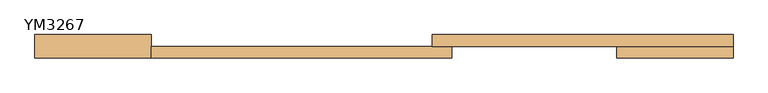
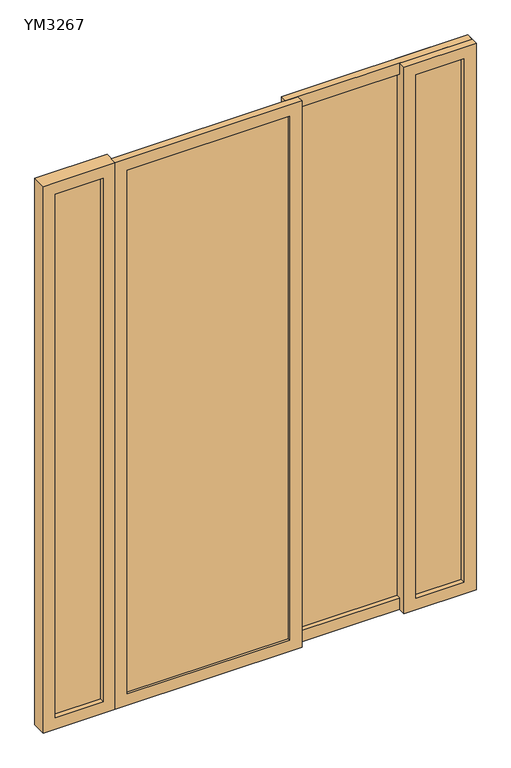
"""IFC4 building model written with IfcOpenShell, lengths in millimetres: door geometry, 移门-推拉门 : YM3267."""

from ifc_helpers import new_model, si_unit, frame, origin, place, context, project, spatial, polyline, outline, extrude, source, transform, mapped, element, save


def ym3267_137c07f3(model_context):
    return source(origin(), model_context, "Body", "SweptSolid", [
        extrude(outline(polyline([(125.0, -5.0), (-550.0, -5.0), (-550.0, 5.0), (125.0, 5.0), (125.0, -5.0)])), frame((0.0, 0.0, 50.0), z_axis=(0.0, 0.0, 1.0), x_axis=(1.0, 0.0, 0.0)), (0.0, 0.0, 1.0), 2300.0),
        extrude(outline(polyline([(850.0, 35.0), (175.0, 35.0), (175.0, 45.0), (850.0, 45.0), (850.0, 35.0)])), frame((0.0, 0.0, 50.0), z_axis=(0.0, 0.0, 1.0), x_axis=(1.0, 0.0, 0.0)), (0.0, 0.0, 1.0), 2300.0),
        extrude(outline(polyline([(-650.0, 5.7105538), (-850.0, 5.7105538), (-850.0, 25.7105538), (-650.0, 25.7105538), (-650.0, 5.7105538)])), frame((0.0, 0.0, 50.0), z_axis=(0.0, 0.0, 1.0), x_axis=(1.0, 0.0, 0.0)), (0.0, 0.0, 1.0), 2300.0),
        extrude(outline(polyline([(850.0, 5.7105538), (650.0, 5.7105538), (650.0, 25.7105538), (850.0, 25.7105538), (850.0, 5.7105538)])), frame((0.0, 0.0, 50.0), z_axis=(0.0, 0.0, 1.0), x_axis=(1.0, 0.0, 0.0)), (0.0, 0.0, 1.0), 2300.0),
        extrude(outline(polyline([(0.0, 900.0), (2400.0, 900.0), (2400.0, 125.0), (0.0, 125.0), (0.0, 900.0)]), holes=[polyline([(2350.0, 175.0), (2350.0, 850.0), (50.0, 850.0), (50.0, 175.0), (2350.0, 175.0)])]), frame((0.0, 15.0, 0.0), z_axis=(0.0, 1.0, 0.0), x_axis=(0.0, 0.0, 1.0)), (0.0, 0.0, 1.0), 30.0),
        extrude(outline(polyline([(0.0, 175.0), (2400.0, 175.0), (2400.0, -600.0), (0.0, -600.0), (0.0, 175.0)]), holes=[polyline([(2350.0, -550.0), (2350.0, 125.0), (50.0, 125.0), (50.0, -550.0), (2350.0, -550.0)])]), frame((0.0, -15.0, 0.0), z_axis=(0.0, 1.0, 0.0), x_axis=(0.0, 0.0, 1.0)), (0.0, 0.0, 1.0), 30.0),
        extrude(outline(polyline([(0.0, -600.0), (2400.0, -600.0), (2400.0, -900.0), (0.0, -900.0), (0.0, -600.0)]), holes=[polyline([(2350.0, -850.0), (2350.0, -650.0), (50.0, -650.0), (50.0, -850.0), (2350.0, -850.0)])]), frame((0.0, -15.0, 0.0), z_axis=(0.0, 1.0, 0.0), x_axis=(0.0, 0.0, 1.0)), (0.0, 0.0, 1.0), 60.0),
        extrude(outline(polyline([(0.0, 900.0), (2400.0, 900.0), (2400.0, 600.0), (0.0, 600.0), (0.0, 900.0)]), holes=[polyline([(2350.0, 650.0), (2350.0, 850.0), (50.0, 850.0), (50.0, 650.0), (2350.0, 650.0)])]), frame((0.0, -15.0, 0.0), z_axis=(0.0, 1.0, 0.0), x_axis=(0.0, 0.0, 1.0)), (0.0, 0.0, 1.0), 60.0),
    ])


if __name__ == "__main__":
    model = new_model("IFC4")
    model_context = context("Model", 3, world=origin())
    ifc_project = project(units=[si_unit("LENGTHUNIT", "METRE", prefix="MILLI")], contexts=[model_context])
    site = spatial("IfcSite", under=ifc_project)
    building = spatial("IfcBuilding", under=site)
    placement = place(None, origin())
    ym3267_shape = ym3267_137c07f3(model_context)
    element("IfcDoor", 1, ObjectType="移门-推拉门 : YM3267", at=placement, inside=building, context=model_context, shape_type="MappedRepresentation", body=[
        mapped(ym3267_shape, transform((0.0, 0.0, 0.0), x_axis=(1.0, 0.0, 0.0), y_axis=(0.0, 1.0, 0.0), z_axis=(0.0, 0.0, 1.0))),
    ])
    save(model, "model.ifc")
